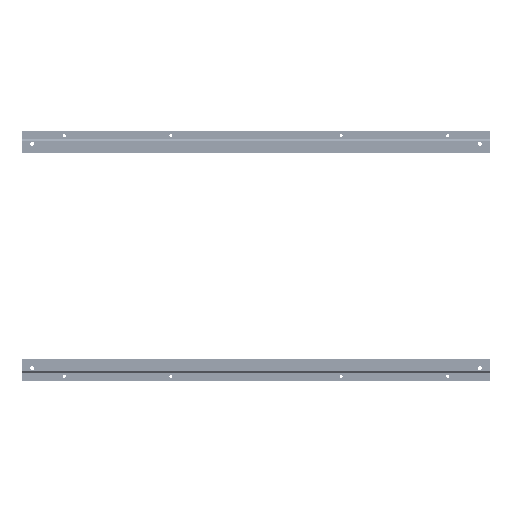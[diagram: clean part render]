
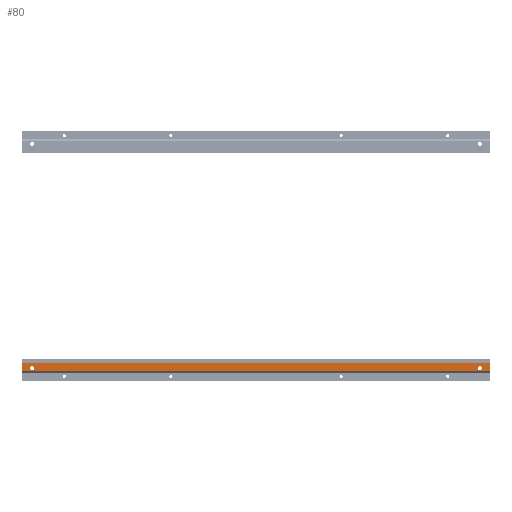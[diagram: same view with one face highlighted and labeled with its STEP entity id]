
A CAD part, left-side view. The second image highlights one B-rep face of the part: STEP entity #80.
In plain terms, the highlighted planar face has unit normal (-1, 0, 0).
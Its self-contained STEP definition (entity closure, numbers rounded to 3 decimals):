
#51 = EDGE_CURVE('',#52,#52,#54,.T.);
#52 = VERTEX_POINT('',#53);
#53 = CARTESIAN_POINT('',(-31.7,1075.,-15.85));
#54 = CIRCLE('',#55,5.);
#55 = AXIS2_PLACEMENT_3D('',#56,#57,#58);
#56 = CARTESIAN_POINT('',(-31.7,1075.,-20.85));
#57 = DIRECTION('',(-1.,0.,0.));
#58 = DIRECTION('',(0.,0.,1.));
#80 = ADVANCED_FACE('',(#81,#84,#95),#129,.F.);
#81 = FACE_BOUND('',#82,.F.);
#82 = EDGE_LOOP('',(#83));
#83 = ORIENTED_EDGE('',*,*,#51,.T.);
#84 = FACE_BOUND('',#85,.F.);
#85 = EDGE_LOOP('',(#86));
#86 = ORIENTED_EDGE('',*,*,#87,.F.);
#87 = EDGE_CURVE('',#88,#88,#90,.T.);
#88 = VERTEX_POINT('',#89);
#89 = CARTESIAN_POINT('',(-31.7,24.,-15.85));
#90 = CIRCLE('',#91,5.);
#91 = AXIS2_PLACEMENT_3D('',#92,#93,#94);
#92 = CARTESIAN_POINT('',(-31.7,24.,-20.85));
#93 = DIRECTION('',(1.,0.,-0.));
#94 = DIRECTION('',(0.,0.,1.));
#95 = FACE_BOUND('',#96,.F.);
#96 = EDGE_LOOP('',(#97,#107,#115,#123));
#97 = ORIENTED_EDGE('',*,*,#98,.F.);
#98 = EDGE_CURVE('',#99,#101,#103,.T.);
#99 = VERTEX_POINT('',#100);
#100 = CARTESIAN_POINT('',(-31.7,0.,-28.081));
#101 = VERTEX_POINT('',#102);
#102 = CARTESIAN_POINT('',(-31.7,0.,-7.2));
#103 = LINE('',#104,#105);
#104 = CARTESIAN_POINT('',(-31.7,0.,-28.081));
#105 = VECTOR('',#106,1.);
#106 = DIRECTION('',(0.,0.,1.));
#107 = ORIENTED_EDGE('',*,*,#108,.T.);
#108 = EDGE_CURVE('',#99,#109,#111,.T.);
#109 = VERTEX_POINT('',#110);
#110 = CARTESIAN_POINT('',(-31.7,1099.,-28.081));
#111 = LINE('',#112,#113);
#112 = CARTESIAN_POINT('',(-31.7,1099.,-28.081));
#113 = VECTOR('',#114,1.);
#114 = DIRECTION('',(0.,1.,0.));
#115 = ORIENTED_EDGE('',*,*,#116,.F.);
#116 = EDGE_CURVE('',#117,#109,#119,.T.);
#117 = VERTEX_POINT('',#118);
#118 = CARTESIAN_POINT('',(-31.7,1099.,-7.2));
#119 = LINE('',#120,#121);
#120 = CARTESIAN_POINT('',(-31.7,1099.,-7.2));
#121 = VECTOR('',#122,1.);
#122 = DIRECTION('',(0.,0.,-1.));
#123 = ORIENTED_EDGE('',*,*,#124,.F.);
#124 = EDGE_CURVE('',#101,#117,#125,.T.);
#125 = LINE('',#126,#127);
#126 = CARTESIAN_POINT('',(-31.7,1099.,-7.2));
#127 = VECTOR('',#128,1.);
#128 = DIRECTION('',(0.,1.,0.));
#129 = PLANE('',#130);
#130 = AXIS2_PLACEMENT_3D('',#131,#132,#133);
#131 = CARTESIAN_POINT('',(-31.7,1099.,-7.2));
#132 = DIRECTION('',(1.,-0.,0.));
#133 = DIRECTION('',(0.,0.,-1.));
